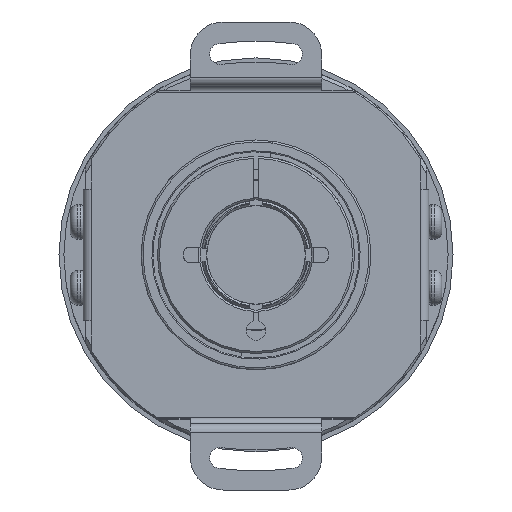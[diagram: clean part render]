
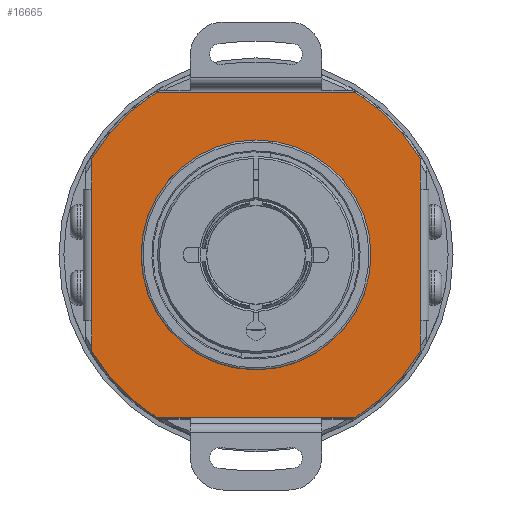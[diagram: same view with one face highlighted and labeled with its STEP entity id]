
A CAD part, front view. The second image highlights one B-rep face of the part: STEP entity #16665.
In plain terms, the highlighted planar face has unit normal (0, -1, 0).
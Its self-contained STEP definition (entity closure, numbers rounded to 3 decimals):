
#905 = CARTESIAN_POINT ( 'NONE',  ( -25., -4.194, 10. ) ) ;
#906 = DIRECTION ( 'NONE',  ( 0., 0., 1. ) ) ;
#917 = DIRECTION ( 'NONE',  ( 0., 0., 1. ) ) ;
#918 = DIRECTION ( 'NONE',  ( 0., -1., 0. ) ) ;
#933 = CARTESIAN_POINT ( 'NONE',  ( -25., -4.194, 14.697 ) ) ;
#936 = VECTOR ( 'NONE', #906, 1000. ) ;
#937 = CARTESIAN_POINT ( 'NONE',  ( -25., -4.194, 25. ) ) ;
#938 = LINE ( 'NONE', #937, #936 ) ;
#1123 = CARTESIAN_POINT ( 'NONE',  ( 25., -4.194, 10. ) ) ;
#1124 = DIRECTION ( 'NONE',  ( 0., 0., -1. ) ) ;
#1125 = VECTOR ( 'NONE', #1124, 1000. ) ;
#1126 = CARTESIAN_POINT ( 'NONE',  ( 25., -4.194, -5. ) ) ;
#1127 = LINE ( 'NONE', #1126, #1125 ) ;
#1148 = DIRECTION ( 'NONE',  ( 0., 0., 1. ) ) ;
#1149 = VECTOR ( 'NONE', #1148, 1000. ) ;
#1150 = CARTESIAN_POINT ( 'NONE',  ( -25., -4.194, -10. ) ) ;
#1151 = LINE ( 'NONE', #1150, #1149 ) ;
#1153 = CARTESIAN_POINT ( 'NONE',  ( -25., -4.194, -10. ) ) ;
#1154 = DIRECTION ( 'NONE',  ( 0., 0., -1. ) ) ;
#1155 = VECTOR ( 'NONE', #1154, 1000. ) ;
#1156 = CARTESIAN_POINT ( 'NONE',  ( -25., -4.194, -5. ) ) ;
#1157 = LINE ( 'NONE', #1156, #1155 ) ;
#4026 = CIRCLE ( 'NONE', #4078, 17.5 ) ;
#4027 = DIRECTION ( 'NONE',  ( 1., 0., 0. ) ) ;
#4028 = DIRECTION ( 'NONE',  ( 0., 1., 0. ) ) ;
#4029 = CARTESIAN_POINT ( 'NONE',  ( 0., -4.194, 0. ) ) ;
#4030 = AXIS2_PLACEMENT_3D ( 'NONE', #4029, #4028, #4027 ) ;
#4031 = CIRCLE ( 'NONE', #4030, 29. ) ;
#4058 = CARTESIAN_POINT ( 'NONE',  ( 0., -4.194, 0. ) ) ;
#4059 = AXIS2_PLACEMENT_3D ( 'NONE', #4058, #918, #917 ) ;
#4060 = CIRCLE ( 'NONE', #4059, 29. ) ;
#4061 = CARTESIAN_POINT ( 'NONE',  ( -15.196, -4.194, 24.7 ) ) ;
#4062 = DIRECTION ( 'NONE',  ( -1., 0., 0. ) ) ;
#4063 = VECTOR ( 'NONE', #4062, 1000. ) ;
#4073 = CARTESIAN_POINT ( 'NONE',  ( 35.2, -4.194, 24.7 ) ) ;
#4074 = LINE ( 'NONE', #4073, #4063 ) ;
#4075 = DIRECTION ( 'NONE',  ( 1., 0., 0. ) ) ;
#4076 = DIRECTION ( 'NONE',  ( 0., -1., 0. ) ) ;
#4077 = CARTESIAN_POINT ( 'NONE',  ( 0., -4.194, 0. ) ) ;
#4078 = AXIS2_PLACEMENT_3D ( 'NONE', #4077, #4076, #4075 ) ;
#6693 = FACE_BOUND ( 'NONE', #16898, .T. ) ;
#6694 = FACE_OUTER_BOUND ( 'NONE', #16666, .T. ) ;
#6774 = CARTESIAN_POINT ( 'NONE',  ( 25., -4.194, -10. ) ) ;
#6775 = DIRECTION ( 'NONE',  ( 0., 0., -1. ) ) ;
#6776 = VECTOR ( 'NONE', #6775, 1000. ) ;
#6777 = CARTESIAN_POINT ( 'NONE',  ( 25., -4.194, -25. ) ) ;
#6778 = LINE ( 'NONE', #6777, #6776 ) ;
#6779 = CARTESIAN_POINT ( 'NONE',  ( 25., -4.194, -14.697 ) ) ;
#6780 = DIRECTION ( 'NONE',  ( 1., 0., 0. ) ) ;
#6811 = DIRECTION ( 'NONE',  ( 0., -1., 0. ) ) ;
#6812 = CARTESIAN_POINT ( 'NONE',  ( 0., -4.194, 0. ) ) ;
#6813 = AXIS2_PLACEMENT_3D ( 'NONE', #6812, #6811, #6780 ) ;
#6814 = CIRCLE ( 'NONE', #6813, 29. ) ;
#6815 = CARTESIAN_POINT ( 'NONE',  ( -15.196, -4.194, -24.7 ) ) ;
#6816 = CARTESIAN_POINT ( 'NONE',  ( 15.196, -4.194, -24.7 ) ) ;
#6817 = DIRECTION ( 'NONE',  ( -1., 0., 0. ) ) ;
#6818 = VECTOR ( 'NONE', #6817, 1000. ) ;
#6819 = CARTESIAN_POINT ( 'NONE',  ( 35.2, -4.194, -24.7 ) ) ;
#6820 = LINE ( 'NONE', #6819, #6818 ) ;
#6821 = DIRECTION ( 'NONE',  ( 1., 0., 0. ) ) ;
#6822 = DIRECTION ( 'NONE',  ( 0., -1., 0. ) ) ;
#6823 = CARTESIAN_POINT ( 'NONE',  ( 35.2, -4.194, -5. ) ) ;
#6824 = AXIS2_PLACEMENT_3D ( 'NONE', #6823, #6822, #6821 ) ;
#6825 = PLANE ( 'NONE',  #6824 ) ;
#6884 = CARTESIAN_POINT ( 'NONE',  ( -17.5, -4.194, 0. ) ) ;
#6953 = CIRCLE ( 'NONE', #6982, 17.5 ) ;
#6954 = CARTESIAN_POINT ( 'NONE',  ( 17.5, -4.194, 0. ) ) ;
#6969 = CARTESIAN_POINT ( 'NONE',  ( 0., -4.194, 0. ) ) ;
#6979 = DIRECTION ( 'NONE',  ( 0., -1., 0. ) ) ;
#6981 = DIRECTION ( 'NONE',  ( 1., 0., 0. ) ) ;
#6982 = AXIS2_PLACEMENT_3D ( 'NONE', #6969, #6979, #6981 ) ;
#7617 = CARTESIAN_POINT ( 'NONE',  ( 15.196, -4.194, 24.7 ) ) ;
#7687 = DIRECTION ( 'NONE',  ( 0., 0., -1. ) ) ;
#7688 = VECTOR ( 'NONE', #7687, 1000. ) ;
#7689 = CARTESIAN_POINT ( 'NONE',  ( 25., -4.194, 10. ) ) ;
#7690 = LINE ( 'NONE', #7689, #7688 ) ;
#7691 = DIRECTION ( 'NONE',  ( -1., 0., 0. ) ) ;
#7692 = DIRECTION ( 'NONE',  ( 0., 1., 0. ) ) ;
#7693 = CARTESIAN_POINT ( 'NONE',  ( 0., -4.194, 0. ) ) ;
#7694 = AXIS2_PLACEMENT_3D ( 'NONE', #7693, #7692, #7691 ) ;
#7695 = CIRCLE ( 'NONE', #7694, 29. ) ;
#7719 = CARTESIAN_POINT ( 'NONE',  ( -25., -4.194, -14.697 ) ) ;
#7767 = CARTESIAN_POINT ( 'NONE',  ( 25., -4.194, 14.697 ) ) ;
#16665 = ADVANCED_FACE ( 'NONE', ( #6694, #6693 ), #6825, .T. ) ;
#16666 = EDGE_LOOP ( 'NONE', ( #16667, #16671, #16674, #16818, #16959, #16808, #16822, #16904, #16913, #16916, #16962, #16824 ) ) ;
#16667 = ORIENTED_EDGE ( 'NONE', *, *, #16668, .F. ) ;
#16668 = EDGE_CURVE ( 'NONE', #16669, #16670, #6820, .T. ) ;
#16669 = VERTEX_POINT ( 'NONE', #6816 ) ;
#16670 = VERTEX_POINT ( 'NONE', #6815 ) ;
#16671 = ORIENTED_EDGE ( 'NONE', *, *, #16672, .T. ) ;
#16672 = EDGE_CURVE ( 'NONE', #16669, #16673, #6814, .T. ) ;
#16673 = VERTEX_POINT ( 'NONE', #6779 ) ;
#16674 = ORIENTED_EDGE ( 'NONE', *, *, #16675, .F. ) ;
#16675 = EDGE_CURVE ( 'NONE', #16676, #16673, #6778, .T. ) ;
#16676 = VERTEX_POINT ( 'NONE', #6774 ) ;
#16697 = VERTEX_POINT ( 'NONE', #6884 ) ;
#16718 = EDGE_CURVE ( 'NONE', #16697, #16719, #6953, .T. ) ;
#16719 = VERTEX_POINT ( 'NONE', #6954 ) ;
#16780 = VERTEX_POINT ( 'NONE', #7617 ) ;
#16808 = ORIENTED_EDGE ( 'NONE', *, *, #16896, .F. ) ;
#16816 = EDGE_CURVE ( 'NONE', #16843, #16958, #7690, .T. ) ;
#16818 = ORIENTED_EDGE ( 'NONE', *, *, #16957, .F. ) ;
#16822 = ORIENTED_EDGE ( 'NONE', *, *, #16902, .T. ) ;
#16823 = VERTEX_POINT ( 'NONE', #7719 ) ;
#16824 = ORIENTED_EDGE ( 'NONE', *, *, #16825, .F. ) ;
#16825 = EDGE_CURVE ( 'NONE', #16670, #16823, #7695, .T. ) ;
#16843 = VERTEX_POINT ( 'NONE', #7767 ) ;
#16896 = EDGE_CURVE ( 'NONE', #16780, #16843, #4031, .T. ) ;
#16898 = EDGE_LOOP ( 'NONE', ( #16899, #16901 ) ) ;
#16899 = ORIENTED_EDGE ( 'NONE', *, *, #16900, .F. ) ;
#16900 = EDGE_CURVE ( 'NONE', #16719, #16697, #4026, .T. ) ;
#16901 = ORIENTED_EDGE ( 'NONE', *, *, #16718, .F. ) ;
#16902 = EDGE_CURVE ( 'NONE', #16780, #16903, #4074, .T. ) ;
#16903 = VERTEX_POINT ( 'NONE', #4061 ) ;
#16904 = ORIENTED_EDGE ( 'NONE', *, *, #16905, .T. ) ;
#16905 = EDGE_CURVE ( 'NONE', #16903, #16912, #4060, .T. ) ;
#16912 = VERTEX_POINT ( 'NONE', #933 ) ;
#16913 = ORIENTED_EDGE ( 'NONE', *, *, #16914, .F. ) ;
#16914 = EDGE_CURVE ( 'NONE', #16915, #16912, #938, .T. ) ;
#16915 = VERTEX_POINT ( 'NONE', #905 ) ;
#16916 = ORIENTED_EDGE ( 'NONE', *, *, #16960, .T. ) ;
#16957 = EDGE_CURVE ( 'NONE', #16958, #16676, #1127, .T. ) ;
#16958 = VERTEX_POINT ( 'NONE', #1123 ) ;
#16959 = ORIENTED_EDGE ( 'NONE', *, *, #16816, .F. ) ;
#16960 = EDGE_CURVE ( 'NONE', #16915, #16961, #1157, .T. ) ;
#16961 = VERTEX_POINT ( 'NONE', #1153 ) ;
#16962 = ORIENTED_EDGE ( 'NONE', *, *, #16963, .F. ) ;
#16963 = EDGE_CURVE ( 'NONE', #16823, #16961, #1151, .T. ) ;
